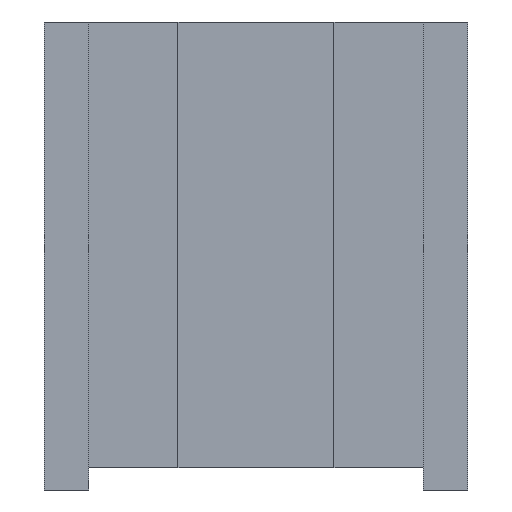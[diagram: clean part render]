
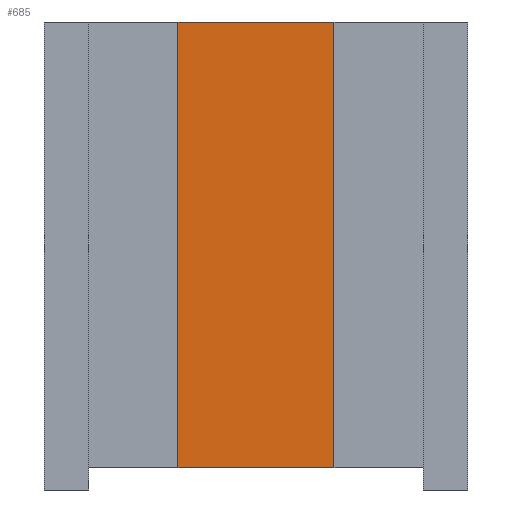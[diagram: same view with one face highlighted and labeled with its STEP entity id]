
A CAD part, left-side view. The second image highlights one B-rep face of the part: STEP entity #685.
In plain terms, the highlighted planar face has unit normal (-1, 0, 0).
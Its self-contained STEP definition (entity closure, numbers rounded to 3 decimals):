
#19 = LINE ( 'NONE', #38, #751 ) ;
#38 = CARTESIAN_POINT ( 'NONE',  ( -42., 1.75, 10.5 ) ) ;
#100 = CARTESIAN_POINT ( 'NONE',  ( -42., -3.5, 10.5 ) ) ;
#106 = CARTESIAN_POINT ( 'NONE',  ( -42., 3.5, -10.5 ) ) ;
#172 = DIRECTION ( 'NONE',  ( -1., 0., 0. ) ) ;
#174 = DIRECTION ( 'NONE',  ( 0., -1., 0. ) ) ;
#219 = LINE ( 'NONE', #739, #888 ) ;
#220 = EDGE_CURVE ( 'NONE', #819, #428, #19, .T. ) ;
#263 = FACE_OUTER_BOUND ( 'NONE', #429, .T. ) ;
#321 = CARTESIAN_POINT ( 'NONE',  ( -42., 3.5, -9.5 ) ) ;
#333 = VECTOR ( 'NONE', #460, 1000. ) ;
#413 = ORIENTED_EDGE ( 'NONE', *, *, #220, .F. ) ;
#416 = VECTOR ( 'NONE', #504, 1000. ) ;
#428 = VERTEX_POINT ( 'NONE', #100 ) ;
#429 = EDGE_LOOP ( 'NONE', ( #413, #507, #715, #541 ) ) ;
#438 = VERTEX_POINT ( 'NONE', #321 ) ;
#445 = EDGE_CURVE ( 'NONE', #438, #628, #219, .T. ) ;
#458 = CARTESIAN_POINT ( 'NONE',  ( -42., -3.5, -9.5 ) ) ;
#460 = DIRECTION ( 'NONE',  ( 0., 0., 1. ) ) ;
#462 = CARTESIAN_POINT ( 'NONE',  ( -42., 1.75, -11.5 ) ) ;
#475 = DIRECTION ( 'NONE',  ( 0., -1., 0. ) ) ;
#504 = DIRECTION ( 'NONE',  ( 0., 0., 1. ) ) ;
#507 = ORIENTED_EDGE ( 'NONE', *, *, #900, .F. ) ;
#521 = CARTESIAN_POINT ( 'NONE',  ( -42., 3.5, 10.5 ) ) ;
#541 = ORIENTED_EDGE ( 'NONE', *, *, #811, .T. ) ;
#597 = PLANE ( 'NONE',  #683 ) ;
#600 = LINE ( 'NONE', #106, #416 ) ;
#628 = VERTEX_POINT ( 'NONE', #458 ) ;
#662 = DIRECTION ( 'NONE',  ( 0., 0., 1. ) ) ;
#683 = AXIS2_PLACEMENT_3D ( 'NONE', #462, #172, #662 ) ;
#685 = ADVANCED_FACE ( 'NONE', ( #263 ), #597, .T. ) ;
#715 = ORIENTED_EDGE ( 'NONE', *, *, #445, .T. ) ;
#739 = CARTESIAN_POINT ( 'NONE',  ( -42., 1.75, -9.5 ) ) ;
#751 = VECTOR ( 'NONE', #475, 1000. ) ;
#795 = CARTESIAN_POINT ( 'NONE',  ( -42., -3.5, -10.5 ) ) ;
#811 = EDGE_CURVE ( 'NONE', #628, #428, #898, .T. ) ;
#819 = VERTEX_POINT ( 'NONE', #521 ) ;
#888 = VECTOR ( 'NONE', #174, 1000. ) ;
#898 = LINE ( 'NONE', #795, #333 ) ;
#900 = EDGE_CURVE ( 'NONE', #438, #819, #600, .T. ) ;
